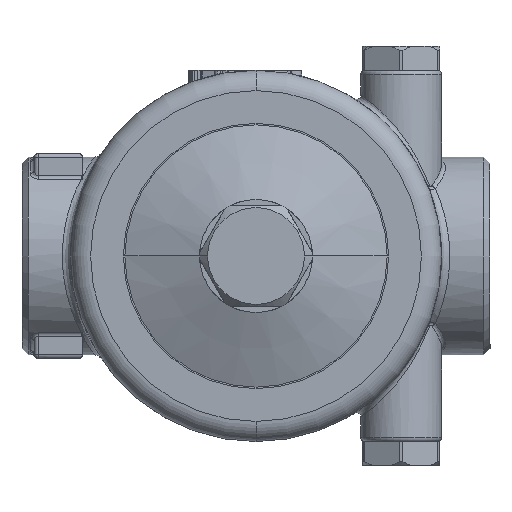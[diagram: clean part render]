
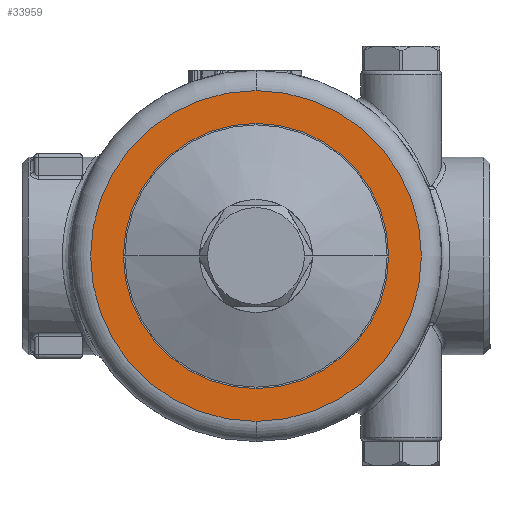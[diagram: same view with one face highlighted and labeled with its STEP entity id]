
A CAD part, front view. The second image highlights one B-rep face of the part: STEP entity #33959.
In plain terms, the highlighted planar face has unit normal (0, -1, 0).
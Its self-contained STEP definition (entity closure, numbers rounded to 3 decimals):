
#127 = CARTESIAN_POINT ( 'NONE',  ( 0., 0., 41. ) ) ;
#225 = CARTESIAN_POINT ( 'NONE',  ( 0., 0., -32.85 ) ) ;
#1348 = CARTESIAN_POINT ( 'NONE',  ( 0., 0., 0. ) ) ;
#1938 = AXIS2_PLACEMENT_3D ( 'NONE', #1348, #26239, #4295 ) ;
#3683 = ORIENTED_EDGE ( 'NONE', *, *, #30782, .F. ) ;
#4209 = CARTESIAN_POINT ( 'NONE',  ( 0., 0., 32.85 ) ) ;
#4295 = DIRECTION ( 'NONE',  ( 0., 0., 1. ) ) ;
#4619 = DIRECTION ( 'NONE',  ( 0., 1., 0. ) ) ;
#4930 = FACE_OUTER_BOUND ( 'NONE', #16664, .T. ) ;
#7543 = DIRECTION ( 'NONE',  ( 0., 0., 1. ) ) ;
#7857 = CARTESIAN_POINT ( 'NONE',  ( 32.85, 0., 0. ) ) ;
#9469 = AXIS2_PLACEMENT_3D ( 'NONE', #7857, #19110, #27587 ) ;
#13079 = CARTESIAN_POINT ( 'NONE',  ( 0., 0., 0. ) ) ;
#13105 = ORIENTED_EDGE ( 'NONE', *, *, #15426, .T. ) ;
#14045 = CIRCLE ( 'NONE', #15812, 41. ) ;
#14577 = DIRECTION ( 'NONE',  ( 0., 0., 1. ) ) ;
#15426 = EDGE_CURVE ( 'NONE', #18004, #16006, #20960, .T. ) ;
#15812 = AXIS2_PLACEMENT_3D ( 'NONE', #20840, #18073, #14577 ) ;
#16006 = VERTEX_POINT ( 'NONE', #4209 ) ;
#16664 = EDGE_LOOP ( 'NONE', ( #3683, #20897 ) ) ;
#17022 = DIRECTION ( 'NONE',  ( 0., 0., 1. ) ) ;
#17140 = VERTEX_POINT ( 'NONE', #127 ) ;
#17831 = CIRCLE ( 'NONE', #1938, 32.85 ) ;
#18004 = VERTEX_POINT ( 'NONE', #225 ) ;
#18073 = DIRECTION ( 'NONE',  ( 0., 1., 0. ) ) ;
#19110 = DIRECTION ( 'NONE',  ( 0., 1., 0. ) ) ;
#20840 = CARTESIAN_POINT ( 'NONE',  ( 0., 0., 0. ) ) ;
#20897 = ORIENTED_EDGE ( 'NONE', *, *, #34844, .F. ) ;
#20960 = CIRCLE ( 'NONE', #23900, 32.85 ) ;
#21866 = FACE_BOUND ( 'NONE', #29027, .T. ) ;
#22502 = CARTESIAN_POINT ( 'NONE',  ( 0., 0., -41. ) ) ;
#23900 = AXIS2_PLACEMENT_3D ( 'NONE', #13079, #4619, #7543 ) ;
#24757 = DIRECTION ( 'NONE',  ( 0., 1., 0. ) ) ;
#26239 = DIRECTION ( 'NONE',  ( 0., 1., 0. ) ) ;
#27587 = DIRECTION ( 'NONE',  ( 0., 0., 1. ) ) ;
#28327 = EDGE_CURVE ( 'NONE', #16006, #18004, #17831, .T. ) ;
#28344 = CIRCLE ( 'NONE', #33042, 41. ) ;
#29027 = EDGE_LOOP ( 'NONE', ( #30690, #13105 ) ) ;
#30651 = VERTEX_POINT ( 'NONE', #22502 ) ;
#30690 = ORIENTED_EDGE ( 'NONE', *, *, #28327, .T. ) ;
#30782 = EDGE_CURVE ( 'NONE', #17140, #30651, #14045, .T. ) ;
#33042 = AXIS2_PLACEMENT_3D ( 'NONE', #36212, #24757, #17022 ) ;
#33117 = PLANE ( 'NONE',  #9469 ) ;
#33959 = ADVANCED_FACE ( 'NONE', ( #4930, #21866 ), #33117, .F. ) ;
#34844 = EDGE_CURVE ( 'NONE', #30651, #17140, #28344, .T. ) ;
#36212 = CARTESIAN_POINT ( 'NONE',  ( 0., 0., 0. ) ) ;
